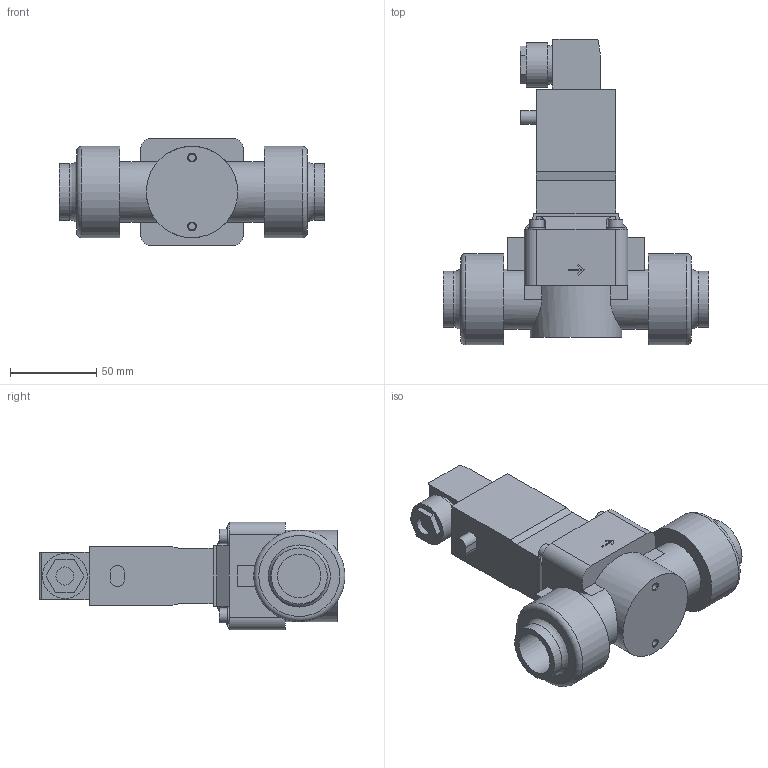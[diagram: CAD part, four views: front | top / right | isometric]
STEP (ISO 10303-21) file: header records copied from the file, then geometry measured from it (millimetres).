
FILE_DESCRIPTION( ( 'STEP AP214' ), '1' );
FILE_NAME( 'p:/temp/worker_1/temp/app_58_02018110101512940127841192d056f_000000_00_00_000000/format_0/0142-042045-2_2-way_Solenoid_Valve_for_aggressive_media__true_union__D20.stp', '2018-11-01T00:51:30', ( '' ), ( '' ), ' ', 'PARTsolutions', ' ' );
FILE_SCHEMA( ( 'AUTOMOTIVE_DESIGN { 1 0 10303 214 1 1 1 1 }' ) );
Length unit declared in the file: millimetre
Products named in the file (1): HI_0142-042045-2/2-way Solenoid Valve for aggressive media, true union, D20
Bounding box: 154 x 177.5 x 62.5 mm (x, y, z)
Volume: 494718.4 mm3; surface area: 60483.5 mm2
Topology: 1 solids, 1 shells, 142 faces, 333 edges, 219 vertices
Faces by surface type: plane 99, cylinder 37, torus 4, cone 2
Full cylindrical faces by diameter (mm): 4.134 x2, 6 x1, 7 x1, 8.5 x4, 10 x4, 10.5 x1, 22.5 x1, 25.2 x2, 26 x1, 32.5 x2, 35 x2, 53 x3
Entity records: 5084 total; most frequent: CARTESIAN_POINT 761, DIRECTION 666, ORIENTED_EDGE 588, EDGE_CURVE 294, AXIS2_PLACEMENT_3D 231, VERTEX_POINT 210, LINE 204, VECTOR 204
